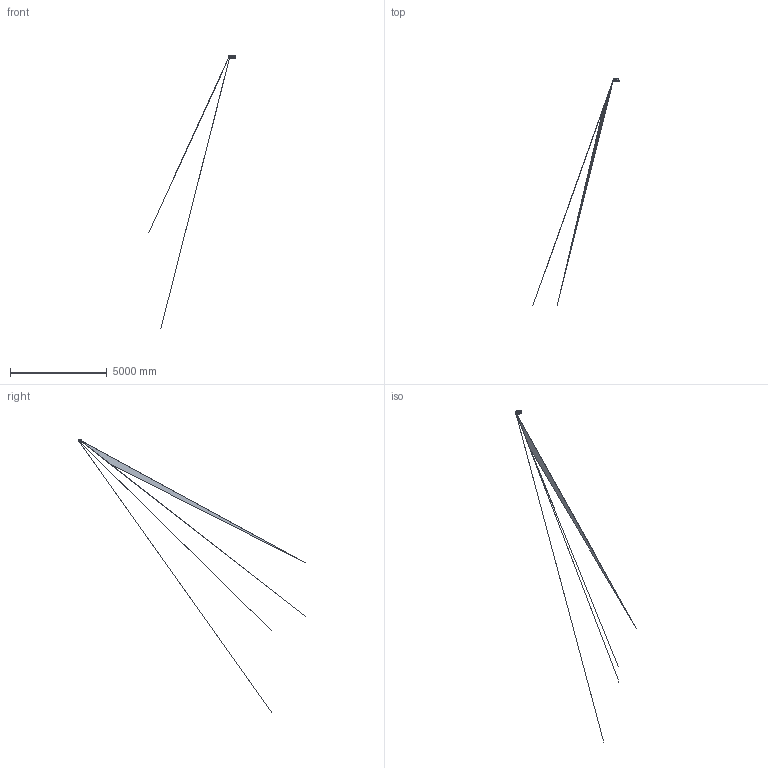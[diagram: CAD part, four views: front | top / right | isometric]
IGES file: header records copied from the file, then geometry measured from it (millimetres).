
Global section: file name: C:\Bose\Develop\Larry\Drawings\Export\Larry Surface 20100420_x_t.igs; native system: NX V6.0; preprocessor: SIEMENS UGS NX 6.0; date: 20100601.101747; units: millimetre
Bounding box: 4465.56 x 11753.11 x 14155.34 mm (x, y, z)
Surface area: 1994209 mm2 (no closed solid volume)
Topology: 0 solids, 0 shells, 2719 faces, 21219 edges, 21070 vertices
Faces by surface type: bspline 2656, offset 63
